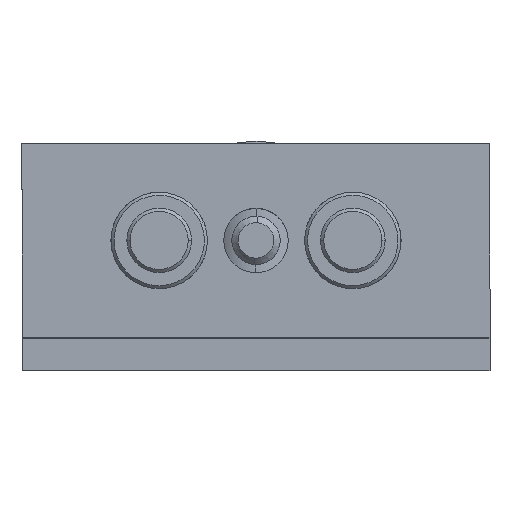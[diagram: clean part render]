
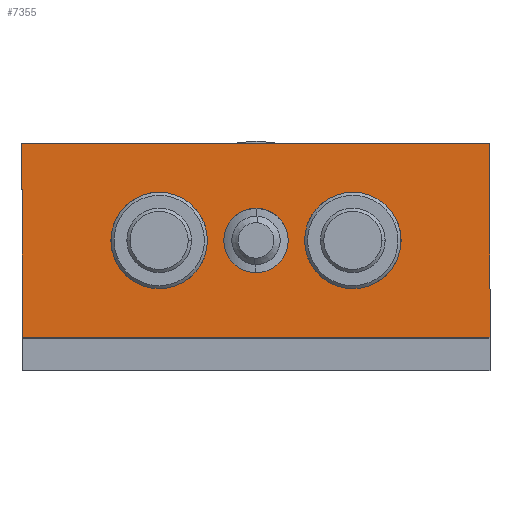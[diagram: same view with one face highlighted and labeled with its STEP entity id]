
A CAD part, top view. The second image highlights one B-rep face of the part: STEP entity #7355.
In plain terms, the highlighted planar face has unit normal (0, 0, 1).
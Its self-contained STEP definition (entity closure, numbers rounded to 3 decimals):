
#498 = ORIENTED_EDGE ( 'NONE', *, *, #16214, .F. ) ;
#674 = ORIENTED_EDGE ( 'NONE', *, *, #1489, .F. ) ;
#688 = DIRECTION ( 'NONE',  ( 0., -1., 0. ) ) ;
#831 = VERTEX_POINT ( 'NONE', #8714 ) ;
#916 = ORIENTED_EDGE ( 'NONE', *, *, #1512, .F. ) ;
#1164 = CARTESIAN_POINT ( 'NONE',  ( -14.5, -6., 14.5 ) ) ;
#1172 = EDGE_CURVE ( 'NONE', #17132, #4606, #6854, .T. ) ;
#1191 = ORIENTED_EDGE ( 'NONE', *, *, #16345, .F. ) ;
#1200 = EDGE_CURVE ( 'NONE', #16614, #5735, #2865, .T. ) ;
#1289 = EDGE_CURVE ( 'NONE', #5735, #4606, #1586, .T. ) ;
#1350 = EDGE_CURVE ( 'NONE', #16614, #17132, #4341, .T. ) ;
#1383 = ORIENTED_EDGE ( 'NONE', *, *, #1514, .F. ) ;
#1399 = DIRECTION ( 'NONE',  ( 1., 0., 0. ) ) ;
#1489 = EDGE_CURVE ( 'NONE', #14887, #12010, #3062, .T. ) ;
#1512 = EDGE_CURVE ( 'NONE', #12256, #14726, #17413, .T. ) ;
#1514 = EDGE_CURVE ( 'NONE', #10072, #831, #13318, .T. ) ;
#1578 = ORIENTED_EDGE ( 'NONE', *, *, #1289, .T. ) ;
#1586 = LINE ( 'NONE', #12774, #15912 ) ;
#1633 = CARTESIAN_POINT ( 'NONE',  ( -6., 0., 14.5 ) ) ;
#1669 = CARTESIAN_POINT ( 'NONE',  ( -14.5, 6., 14.5 ) ) ;
#1788 = ORIENTED_EDGE ( 'NONE', *, *, #1172, .F. ) ;
#1799 = ORIENTED_EDGE ( 'NONE', *, *, #1350, .F. ) ;
#1833 = ORIENTED_EDGE ( 'NONE', *, *, #16034, .F. ) ;
#2145 = AXIS2_PLACEMENT_3D ( 'NONE', #9249, #8985, #8919 ) ;
#2167 = AXIS2_PLACEMENT_3D ( 'NONE', #12028, #12086, #3003 ) ;
#2188 = AXIS2_PLACEMENT_3D ( 'NONE', #11731, #11575, #11793 ) ;
#2436 = ORIENTED_EDGE ( 'NONE', *, *, #1200, .T. ) ;
#2450 = CARTESIAN_POINT ( 'NONE',  ( 14.5, 6., 14.5 ) ) ;
#2543 = AXIS2_PLACEMENT_3D ( 'NONE', #2450, #6450, #12245 ) ;
#2865 = LINE ( 'NONE', #1669, #17203 ) ;
#2995 = DIRECTION ( 'NONE',  ( 0., 1., 0. ) ) ;
#3003 = DIRECTION ( 'NONE',  ( 0., 1., 0. ) ) ;
#3062 = CIRCLE ( 'NONE', #2188, 2.99 ) ;
#3172 = DIRECTION ( 'NONE',  ( 0., 0., 1. ) ) ;
#3206 = CARTESIAN_POINT ( 'NONE',  ( 14.5, -6., 14.5 ) ) ;
#3411 = AXIS2_PLACEMENT_3D ( 'NONE', #11567, #3172, #12936 ) ;
#3584 = CARTESIAN_POINT ( 'NONE',  ( -14.5, 6., 14.5 ) ) ;
#4341 = LINE ( 'NONE', #5606, #15026 ) ;
#4606 = VERTEX_POINT ( 'NONE', #3206 ) ;
#5037 = CARTESIAN_POINT ( 'NONE',  ( -6., -2.99, 14.5 ) ) ;
#5162 = DIRECTION ( 'NONE',  ( 1., 0., 0. ) ) ;
#5350 = CARTESIAN_POINT ( 'NONE',  ( 0., 0., 14.5 ) ) ;
#5606 = CARTESIAN_POINT ( 'NONE',  ( 14.5, 6., 14.5 ) ) ;
#5726 = CARTESIAN_POINT ( 'NONE',  ( 14.5, 6., 14.5 ) ) ;
#5735 = VERTEX_POINT ( 'NONE', #1164 ) ;
#5804 = DIRECTION ( 'NONE',  ( 0., -1., 0. ) ) ;
#6344 = FACE_BOUND ( 'NONE', #16123, .T. ) ;
#6431 = VECTOR ( 'NONE', #5804, 1000. ) ;
#6442 = CIRCLE ( 'NONE', #12230, 2. ) ;
#6450 = DIRECTION ( 'NONE',  ( 0., 0., -1. ) ) ;
#6702 = DIRECTION ( 'NONE',  ( 0., 1., 0. ) ) ;
#6854 = LINE ( 'NONE', #5726, #6431 ) ;
#7355 = ADVANCED_FACE ( 'NONE', ( #9686, #13424, #6344, #17101 ), #10489, .F. ) ;
#8049 = CARTESIAN_POINT ( 'NONE',  ( 0., 2., 14.5 ) ) ;
#8483 = CARTESIAN_POINT ( 'NONE',  ( -6., 2.99, 14.5 ) ) ;
#8714 = CARTESIAN_POINT ( 'NONE',  ( 0., -2., 14.5 ) ) ;
#8919 = DIRECTION ( 'NONE',  ( 0., 1., 0. ) ) ;
#8985 = DIRECTION ( 'NONE',  ( 0., 0., 1. ) ) ;
#9249 = CARTESIAN_POINT ( 'NONE',  ( 0., 0., 14.5 ) ) ;
#9686 = FACE_BOUND ( 'NONE', #17975, .T. ) ;
#9824 = CARTESIAN_POINT ( 'NONE',  ( 14.5, 6., 14.5 ) ) ;
#10072 = VERTEX_POINT ( 'NONE', #8049 ) ;
#10489 = PLANE ( 'NONE',  #2543 ) ;
#11377 = DIRECTION ( 'NONE',  ( 0., 0., 1. ) ) ;
#11567 = CARTESIAN_POINT ( 'NONE',  ( 6., 0., 14.5 ) ) ;
#11575 = DIRECTION ( 'NONE',  ( 0., 0., 1. ) ) ;
#11731 = CARTESIAN_POINT ( 'NONE',  ( -6., 0., 14.5 ) ) ;
#11793 = DIRECTION ( 'NONE',  ( 0., 1., 0. ) ) ;
#12010 = VERTEX_POINT ( 'NONE', #5037 ) ;
#12028 = CARTESIAN_POINT ( 'NONE',  ( 6., 0., 14.5 ) ) ;
#12086 = DIRECTION ( 'NONE',  ( 0., 0., 1. ) ) ;
#12230 = AXIS2_PLACEMENT_3D ( 'NONE', #5350, #15157, #6702 ) ;
#12245 = DIRECTION ( 'NONE',  ( 0., -1., 0. ) ) ;
#12256 = VERTEX_POINT ( 'NONE', #15964 ) ;
#12774 = CARTESIAN_POINT ( 'NONE',  ( 14.5, -6., 14.5 ) ) ;
#12936 = DIRECTION ( 'NONE',  ( 0., 1., 0. ) ) ;
#13318 = CIRCLE ( 'NONE', #2145, 2. ) ;
#13424 = FACE_BOUND ( 'NONE', #16297, .T. ) ;
#13866 = CARTESIAN_POINT ( 'NONE',  ( 6., -2.99, 14.5 ) ) ;
#14726 = VERTEX_POINT ( 'NONE', #13866 ) ;
#14887 = VERTEX_POINT ( 'NONE', #8483 ) ;
#15026 = VECTOR ( 'NONE', #5162, 1000. ) ;
#15157 = DIRECTION ( 'NONE',  ( 0., 0., 1. ) ) ;
#15912 = VECTOR ( 'NONE', #1399, 1000. ) ;
#15964 = CARTESIAN_POINT ( 'NONE',  ( 6., 2.99, 14.5 ) ) ;
#16034 = EDGE_CURVE ( 'NONE', #831, #10072, #6442, .T. ) ;
#16117 = EDGE_LOOP ( 'NONE', ( #1578, #1788, #1799, #2436 ) ) ;
#16123 = EDGE_LOOP ( 'NONE', ( #1383, #1833 ) ) ;
#16147 = CIRCLE ( 'NONE', #16808, 2.99 ) ;
#16214 = EDGE_CURVE ( 'NONE', #12010, #14887, #16147, .T. ) ;
#16297 = EDGE_LOOP ( 'NONE', ( #916, #1191 ) ) ;
#16335 = CIRCLE ( 'NONE', #3411, 2.99 ) ;
#16345 = EDGE_CURVE ( 'NONE', #14726, #12256, #16335, .T. ) ;
#16614 = VERTEX_POINT ( 'NONE', #3584 ) ;
#16808 = AXIS2_PLACEMENT_3D ( 'NONE', #1633, #11377, #2995 ) ;
#17101 = FACE_OUTER_BOUND ( 'NONE', #16117, .T. ) ;
#17132 = VERTEX_POINT ( 'NONE', #9824 ) ;
#17203 = VECTOR ( 'NONE', #688, 1000. ) ;
#17413 = CIRCLE ( 'NONE', #2167, 2.99 ) ;
#17975 = EDGE_LOOP ( 'NONE', ( #674, #498 ) ) ;
